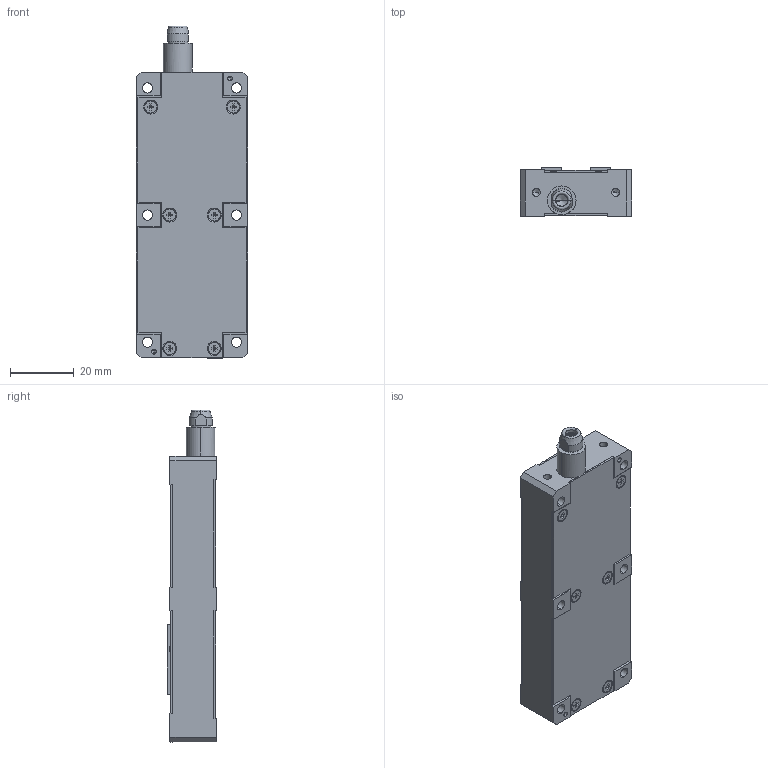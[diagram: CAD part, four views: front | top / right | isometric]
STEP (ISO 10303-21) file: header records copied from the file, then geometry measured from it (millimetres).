
FILE_DESCRIPTION (( 'STEP AP203' ), '1' );
FILE_NAME ('00000551.STEP', '2023-03-16T11:34:20', ( '' ), ( '' ), 'SwSTEP 2.0', 'SolidWorks 2021', '' );
FILE_SCHEMA (( 'CONFIG_CONTROL_DESIGN' ));
Length unit declared in the file: millimetre
Products named in the file (8): 50000727; 00000358; 50000731; DIN EN ISO 7046-1 - M2 x 5 - Z - 5N_DIN EN ISO 7046-1 - M2 x 5 - Z - 5N; 00000551; 50000728; 50000733; 00000357
Assembly tree (22 placements, depth 3):
  00000551
    50000728
      50000727
    50000731
    00000357
    00000358
    50000733
    DIN EN ISO 7046-1 - M2 x 5 - Z - 5N_DIN EN ISO 7046-1 - M2 x 5 - Z - 5N  x16
Bounding box: 35 x 15.5 x 104.5 mm (x, y, z)
Volume: 43955.1 mm3; surface area: 24243.1 mm2
Topology: 21 solids, 21 shells, 1063 faces, 2638 edges, 1585 vertices
Faces by surface type: plane 539, cone 288, cylinder 202, torus 34
Entity records: 15558 total; most frequent: CARTESIAN_POINT 2674, DIRECTION 2503, ORIENTED_EDGE 2376, EDGE_CURVE 1188, AXIS2_PLACEMENT_3D 876, VERTEX_POINT 775, LINE 751, VECTOR 751
